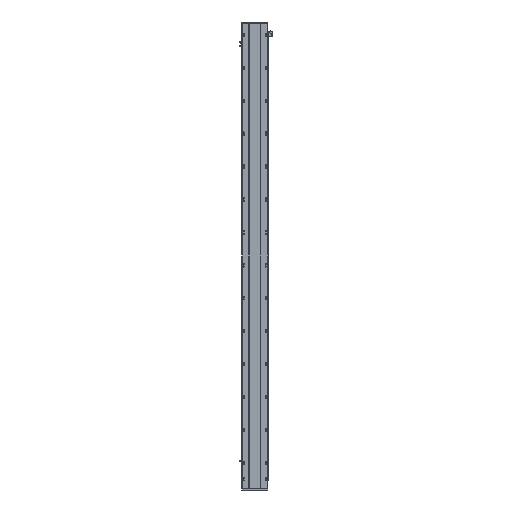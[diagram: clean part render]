
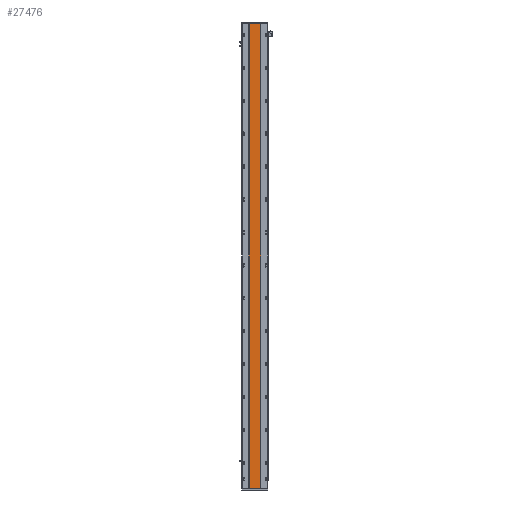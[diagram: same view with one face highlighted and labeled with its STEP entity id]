
A CAD part, front view. The second image highlights one B-rep face of the part: STEP entity #27476.
In plain terms, the highlighted planar face has unit normal (0, -1, 0).
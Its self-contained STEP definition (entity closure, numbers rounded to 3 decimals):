
#1430 = VERTEX_POINT ( 'NONE', #35217 ) ;
#4873 = CARTESIAN_POINT ( 'NONE',  ( 129.288, 16.9, 3052. ) ) ;
#5864 = VERTEX_POINT ( 'NONE', #14739 ) ;
#5888 = FACE_OUTER_BOUND ( 'NONE', #40773, .T. ) ;
#6263 = CARTESIAN_POINT ( 'NONE',  ( 205.288, 16.9, 3052. ) ) ;
#7368 = LINE ( 'NONE', #12049, #7567 ) ;
#7567 = VECTOR ( 'NONE', #27081, 1000. ) ;
#7658 = EDGE_CURVE ( 'NONE', #5864, #38877, #28841, .T. ) ;
#9283 = EDGE_CURVE ( 'NONE', #1430, #47803, #10439, .T. ) ;
#10210 = DIRECTION ( 'NONE',  ( 0., 0., -1. ) ) ;
#10439 = LINE ( 'NONE', #4873, #17516 ) ;
#11339 = PLANE ( 'NONE',  #30274 ) ;
#11688 = DIRECTION ( 'NONE',  ( -1., 0., 0. ) ) ;
#12049 = CARTESIAN_POINT ( 'NONE',  ( 205.288, 16.9, 0. ) ) ;
#12322 = DIRECTION ( 'NONE',  ( 0., 0., -1. ) ) ;
#14739 = CARTESIAN_POINT ( 'NONE',  ( 205.288, 16.9, 3052. ) ) ;
#14965 = CARTESIAN_POINT ( 'NONE',  ( 205.288, 16.9, 3052. ) ) ;
#17516 = VECTOR ( 'NONE', #12322, 1000. ) ;
#18822 = CARTESIAN_POINT ( 'NONE',  ( 129.288, 16.9, 0. ) ) ;
#22923 = VECTOR ( 'NONE', #46825, 1000. ) ;
#25885 = ORIENTED_EDGE ( 'NONE', *, *, #9283, .T. ) ;
#27081 = DIRECTION ( 'NONE',  ( 1., 0., 0. ) ) ;
#27476 = ADVANCED_FACE ( 'NONE', ( #5888 ), #11339, .F. ) ;
#28612 = CARTESIAN_POINT ( 'NONE',  ( 205.288, 16.9, 0. ) ) ;
#28841 = LINE ( 'NONE', #6263, #37714 ) ;
#30274 = AXIS2_PLACEMENT_3D ( 'NONE', #14965, #41428, #11688 ) ;
#32599 = ORIENTED_EDGE ( 'NONE', *, *, #42410, .F. ) ;
#35217 = CARTESIAN_POINT ( 'NONE',  ( 129.288, 16.9, 3052. ) ) ;
#37714 = VECTOR ( 'NONE', #10210, 1000. ) ;
#38877 = VERTEX_POINT ( 'NONE', #28612 ) ;
#39418 = ORIENTED_EDGE ( 'NONE', *, *, #7658, .F. ) ;
#40773 = EDGE_LOOP ( 'NONE', ( #45617, #39418, #32599, #25885 ) ) ;
#41018 = EDGE_CURVE ( 'NONE', #47803, #38877, #7368, .T. ) ;
#41428 = DIRECTION ( 'NONE',  ( 0., 1., 0. ) ) ;
#42410 = EDGE_CURVE ( 'NONE', #1430, #5864, #46554, .T. ) ;
#43079 = CARTESIAN_POINT ( 'NONE',  ( 129.288, 16.9, 3052. ) ) ;
#45617 = ORIENTED_EDGE ( 'NONE', *, *, #41018, .T. ) ;
#46554 = LINE ( 'NONE', #43079, #22923 ) ;
#46825 = DIRECTION ( 'NONE',  ( 1., 0., 0. ) ) ;
#47803 = VERTEX_POINT ( 'NONE', #18822 ) ;
